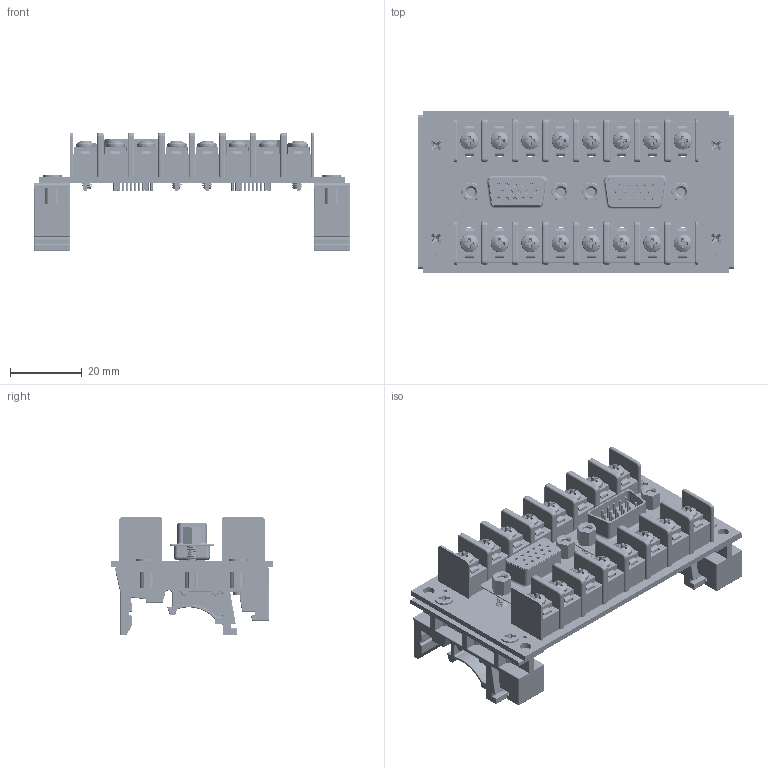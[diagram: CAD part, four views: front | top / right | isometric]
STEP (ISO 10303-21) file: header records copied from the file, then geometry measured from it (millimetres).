
FILE_DESCRIPTION(('FreeCAD Model'),'2;1');
FILE_NAME('Open CASCADE Shape Model','2025-07-16T22:01:25',(''),(''), 'Open CASCADE STEP processor 7.6','FreeCAD','Unknown');
FILE_SCHEMA(('AUTOMOTIVE_DESIGN { 1 0 10303 214 1 1 1 1 }'));
Length unit declared in the file: millimetre
Products named in the file (26): DE15MF-TB-V2; Local_CS_9236; Board_Geoms_9236; Pcb_9236; PCB_Sketch_9236; botSilks_8f52; topSilks_8286; Step_Models_9236; Top_9236; TB3_User Library-KF8500-4P_null; K8500 1S; K8500 Midlle Block; K8500 Wall; K8500 Pad; K8500 Washer; M3x6mm_92005A066; K8500 1S001; K8500 1S002; K8500 1S003; Male_DSUB-15-HD_Male_Vertical_P2.29x1.98mm_MountingHoles_null; Male_74m9499_5205818-2_null[2]; Female_DSUB-15-HD_Female_Vertical_P2.29x1.98mm_MountingHoles_null; Step_Virtual_Models_9236; TopV_9236; DRA2_User_Library-CMI00027_null[2]; DRA2_M3x10-Screw_null[3]
Assembly tree (54 placements, depth 6):
  DE15MF-TB-V2
    Local_CS_9236
    Board_Geoms_9236
      Pcb_9236
      PCB_Sketch_9236
      botSilks_8f52
      topSilks_8286
    Step_Models_9236
      Top_9236
        TB3_User Library-KF8500-4P_null  x4
          K8500 1S
            K8500 Midlle Block
            K8500 Wall  x2
            K8500 Pad
            K8500 Washer
            M3x6mm_92005A066
          K8500 1S001
            K8500 Midlle Block
            K8500 Wall  x2
            K8500 Pad
            K8500 Washer
            M3x6mm_92005A066
          K8500 1S002
            K8500 Midlle Block
            K8500 Wall  x2
            K8500 Pad
            K8500 Washer
            M3x6mm_92005A066
          K8500 1S003
            K8500 Midlle Block
            K8500 Wall  x2
            K8500 Pad
            K8500 Washer
            M3x6mm_92005A066
        Male_DSUB-15-HD_Male_Vertical_P2.29x1.98mm_MountingHoles_null
        Male_74m9499_5205818-2_null[2]  x4
        Female_DSUB-15-HD_Female_Vertical_P2.29x1.98mm_MountingHoles_null
    Step_Virtual_Models_9236
      TopV_9236
        DRA2_User_Library-CMI00027_null[2]  x2
        DRA2_M3x10-Screw_null[3]  x4
Bounding box: 88 x 45 x 33 mm (x, y, z)
Volume: 29052.5 mm3; surface area: 46491.5 mm2
Topology: 109 solids, 211 shells, 4494 faces, 25441 edges, 21045 vertices
Faces by surface type: cylinder 2004, plane 1688, cone 259, bspline 240, torus 181, revolution 108, sphere 14
Full cylindrical faces by diameter (mm): 0.64 x60, 0.853 x15, 1 x30, 1.152 x3, 1.7 x16, 3 x4, 3.2 x16, 5.3 x4
Entity records: 155381 total; most frequent: CARTESIAN_POINT 39325, DIRECTION 20078, ORIENTED_EDGE 19371, EDGE_CURVE 16738, VERTEX_POINT 15387, LINE 15279, VECTOR 15279, AXIS2_PLACEMENT_3D 2371
